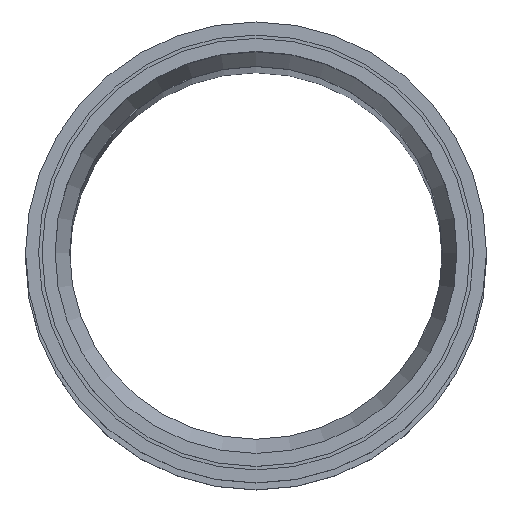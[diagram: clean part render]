
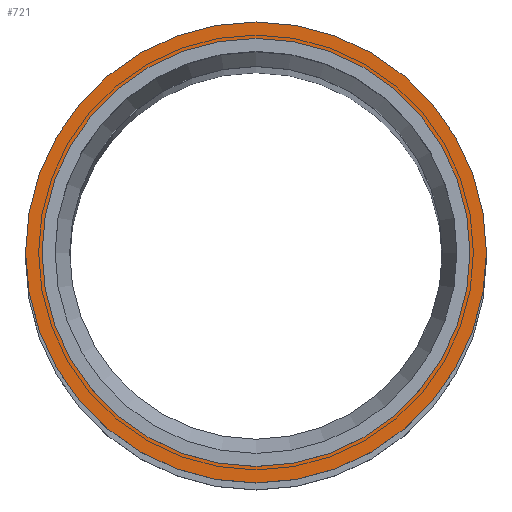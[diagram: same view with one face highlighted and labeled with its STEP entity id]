
A CAD part, top view. The second image highlights one B-rep face of the part: STEP entity #721.
In plain terms, the highlighted planar face has unit normal (0, 0, 1) as drawn and (1, 0, 0) by its records, which use the part's own axes.
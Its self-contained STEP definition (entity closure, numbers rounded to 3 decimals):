
#104=PLANE($,#801);
#131=FACE_BOUND($,#239,.T.);
#132=FACE_BOUND($,#240,.T.);
#239=EDGE_LOOP($,(#605));
#240=EDGE_LOOP($,(#606));
#288=CIRCLE($,#800,63.7);
#289=CIRCLE($,#802,59.15);
#358=VERTEX_POINT($,#1929);
#359=VERTEX_POINT($,#1932);
#444=EDGE_CURVE($,#358,#358,#288,.T.);
#445=EDGE_CURVE($,#359,#359,#289,.T.);
#605=ORIENTED_EDGE($,*,*,#445,.F.);
#606=ORIENTED_EDGE($,*,*,#444,.T.);
#721=ADVANCED_FACE($,(#131,#132),#104,.T.);
#800=AXIS2_PLACEMENT_3D($,#1930,#954,#955);
#801=AXIS2_PLACEMENT_3D($,#1931,#956,#957);
#802=AXIS2_PLACEMENT_3D($,#1933,#958,#959);
#954=DIRECTION('center_axis',(1.,0.,0.));
#955=DIRECTION('ref_axis',(0.,1.,0.));
#956=DIRECTION('center_axis',(1.,0.,0.));
#957=DIRECTION('ref_axis',(0.,0.,-1.));
#958=DIRECTION('center_axis',(1.,0.,0.));
#959=DIRECTION('ref_axis',(0.,1.,0.));
#1929=CARTESIAN_POINT('',(75.6,63.7,0.));
#1930=CARTESIAN_POINT('Origin',(75.6,0.,0.));
#1931=CARTESIAN_POINT('Origin',(75.6,61.425,0.));
#1932=CARTESIAN_POINT('',(75.6,59.15,0.));
#1933=CARTESIAN_POINT('Origin',(75.6,0.,0.));
